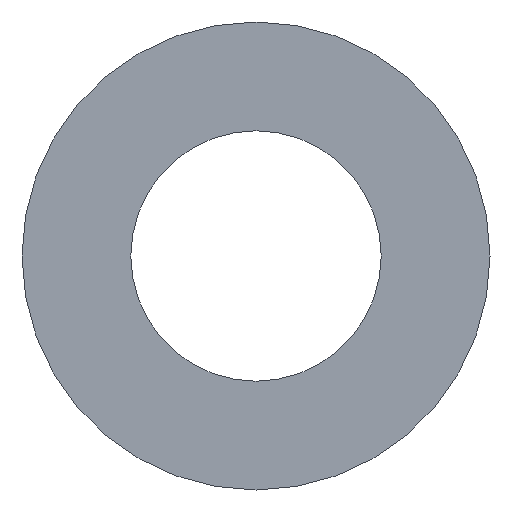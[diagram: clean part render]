
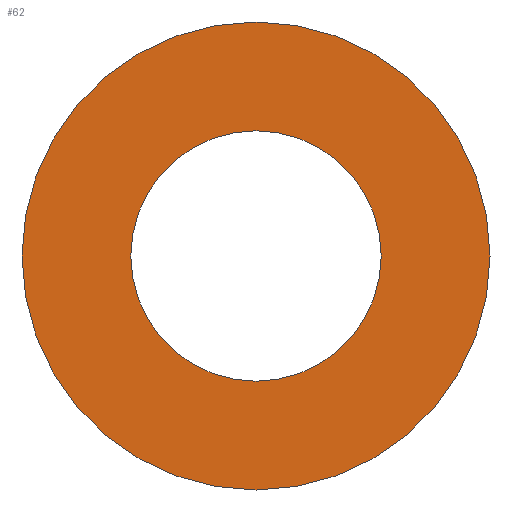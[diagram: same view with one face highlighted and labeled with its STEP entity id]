
A CAD part, front view. The second image highlights one B-rep face of the part: STEP entity #62.
In plain terms, the highlighted planar face has unit normal (0, -1, 0).
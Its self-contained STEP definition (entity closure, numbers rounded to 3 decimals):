
#20=PLANE('',#83);
#26=ORIENTED_EDGE('',*,*,#30,.T.);
#27=ORIENTED_EDGE('',*,*,#32,.F.);
#30=EDGE_CURVE('',#34,#34,#38,.T.);
#32=EDGE_CURVE('',#36,#36,#40,.T.);
#34=VERTEX_POINT('',#106);
#36=VERTEX_POINT('',#111);
#38=CIRCLE('',#78,38.);
#40=CIRCLE('',#81,71.);
#46=EDGE_LOOP('',(#26));
#47=EDGE_LOOP('',(#27));
#54=FACE_BOUND('',#46,.T.);
#55=FACE_BOUND('',#47,.T.);
#62=ADVANCED_FACE('',(#54,#55),#20,.F.);
#78=AXIS2_PLACEMENT_3D('',#105,#89,#90);
#81=AXIS2_PLACEMENT_3D('',#110,#95,#96);
#83=AXIS2_PLACEMENT_3D('',#114,#99,#100);
#89=DIRECTION('',(0.,1.,0.));
#90=DIRECTION('',(1.,0.,0.));
#95=DIRECTION('',(0.,1.,0.));
#96=DIRECTION('',(1.,0.,0.));
#99=DIRECTION('',(0.,1.,0.));
#100=DIRECTION('',(0.,0.,1.));
#105=CARTESIAN_POINT('',(0.,-1.5,0.));
#106=CARTESIAN_POINT('',(38.,-1.5,0.));
#110=CARTESIAN_POINT('',(0.,-1.5,0.));
#111=CARTESIAN_POINT('',(71.,-1.5,0.));
#114=CARTESIAN_POINT('',(0.,-1.5,0.));
